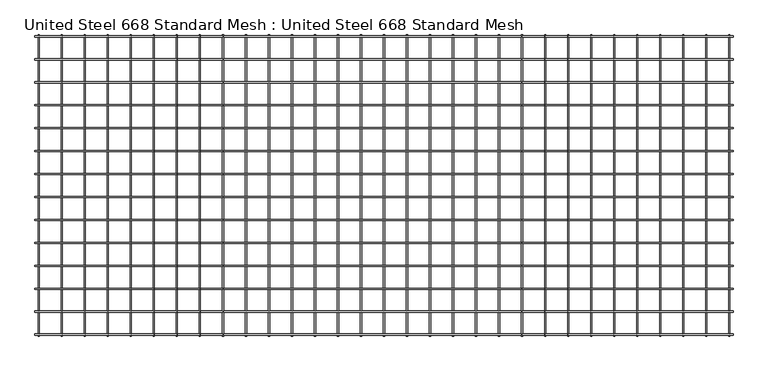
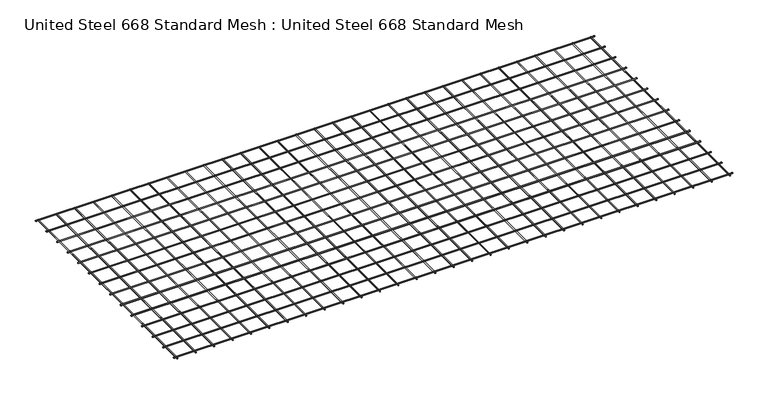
"""IFC4 building model written with IfcOpenShell, lengths in millimetres: proxy geometry, United Steel 668 Standard Mesh : United Steel 668 Standard Mesh."""

from ifc_helpers import new_model, si_unit, point, frame, frame_2d, origin, place, context, project, spatial, circle_curve, trimmed, segment, composite_curve, outline, extrude, source, transform, mapped, element, save


def united_steel_668_standard_mesh_united_steel_668_standard_f7d3e2c0(model_context):
    return source(origin(), model_context, "Body", "SweptSolid", [
        extrude(outline(composite_curve([segment(trimmed(circle_curve(frame_2d((-160.258988, 11.9785975)), 4.0), [point((-164.258988, 11.9785975))], [point((-156.258988, 11.9785975))], False, "CARTESIAN"), True, "CONTINUOUS"), segment(trimmed(circle_curve(frame_2d((-160.258988, 11.9785975)), 4.0), [point((-156.258988, 11.9785975))], [point((-164.258988, 11.9785975))], False, "CARTESIAN"), True, "CONTINUOUS")], self_intersect=False)), frame((-4560.0, 0.0, 0.0), z_axis=(1.0, 0.0, 0.0), x_axis=(0.0, 1.0, 0.0)), (0.0, 0.0, 1.0), 4560.0),
        extrude(outline(composite_curve([segment(trimmed(circle_curve(frame_2d((3.981299, -4384.564546)), 4.0), [point((3.981299, -4388.564546))], [point((3.981299, -4380.564546))], False, "CARTESIAN"), True, "CONTINUOUS"), segment(trimmed(circle_curve(frame_2d((3.981299, -4384.564546)), 4.0), [point((3.981299, -4380.564546))], [point((3.981299, -4388.564546))], False, "CARTESIAN"), True, "CONTINUOUS")], self_intersect=False)), frame((0.0, -1970.0, 0.0), z_axis=(0.0, 1.0, 0.0), x_axis=(0.0, 0.0, 1.0)), (0.0, 0.0, 1.0), 1970.0),
        extrude(outline(composite_curve([segment(trimmed(circle_curve(frame_2d((-310.2633498, 11.9785975)), 4.0), [point((-314.2633498, 11.9785975))], [point((-306.2633498, 11.9785975))], False, "CARTESIAN"), True, "CONTINUOUS"), segment(trimmed(circle_curve(frame_2d((-310.2633498, 11.9785975)), 4.0), [point((-306.2633498, 11.9785975))], [point((-314.2633498, 11.9785975))], False, "CARTESIAN"), True, "CONTINUOUS")], self_intersect=False)), frame((-4560.0, 0.0, 0.0), z_axis=(1.0, 0.0, 0.0), x_axis=(0.0, 1.0, 0.0)), (0.0, 0.0, 1.0), 4560.0),
        extrude(outline(composite_curve([segment(trimmed(circle_curve(frame_2d((-460.2677116, 11.9785975)), 4.0), [point((-464.2677116, 11.9785975))], [point((-456.2677116, 11.9785975))], False, "CARTESIAN"), True, "CONTINUOUS"), segment(trimmed(circle_curve(frame_2d((-460.2677116, 11.9785975)), 4.0), [point((-456.2677116, 11.9785975))], [point((-464.2677116, 11.9785975))], False, "CARTESIAN"), True, "CONTINUOUS")], self_intersect=False)), frame((-4560.0, 0.0, 0.0), z_axis=(1.0, 0.0, 0.0), x_axis=(0.0, 1.0, 0.0)), (0.0, 0.0, 1.0), 4560.0),
        extrude(outline(composite_curve([segment(trimmed(circle_curve(frame_2d((3.981299, -4234.2352351)), 4.0), [point((3.981299, -4238.2352351))], [point((3.981299, -4230.2352351))], False, "CARTESIAN"), True, "CONTINUOUS"), segment(trimmed(circle_curve(frame_2d((3.981299, -4234.2352351)), 4.0), [point((3.981299, -4230.2352351))], [point((3.981299, -4238.2352351))], False, "CARTESIAN"), True, "CONTINUOUS")], self_intersect=False)), frame((0.0, -1970.0, 0.0), z_axis=(0.0, 1.0, 0.0), x_axis=(0.0, 0.0, 1.0)), (0.0, 0.0, 1.0), 1970.0),
        extrude(outline(composite_curve([segment(trimmed(circle_curve(frame_2d((3.981299, -4083.9059242)), 4.0), [point((3.981299, -4087.9059242))], [point((3.981299, -4079.9059242))], False, "CARTESIAN"), True, "CONTINUOUS"), segment(trimmed(circle_curve(frame_2d((3.981299, -4083.9059242)), 4.0), [point((3.981299, -4079.9059242))], [point((3.981299, -4087.9059242))], False, "CARTESIAN"), True, "CONTINUOUS")], self_intersect=False)), frame((0.0, -1970.0, 0.0), z_axis=(0.0, 1.0, 0.0), x_axis=(0.0, 0.0, 1.0)), (0.0, 0.0, 1.0), 1970.0),
        extrude(outline(composite_curve([segment(trimmed(circle_curve(frame_2d((3.981299, -3933.5766132)), 4.0), [point((3.981299, -3937.5766132))], [point((3.981299, -3929.5766132))], False, "CARTESIAN"), True, "CONTINUOUS"), segment(trimmed(circle_curve(frame_2d((3.981299, -3933.5766132)), 4.0), [point((3.981299, -3929.5766132))], [point((3.981299, -3937.5766132))], False, "CARTESIAN"), True, "CONTINUOUS")], self_intersect=False)), frame((0.0, -1970.0, 0.0), z_axis=(0.0, 1.0, 0.0), x_axis=(0.0, 0.0, 1.0)), (0.0, 0.0, 1.0), 1970.0),
        extrude(outline(composite_curve([segment(trimmed(circle_curve(frame_2d((3.981299, -3783.2473023)), 4.0), [point((3.981299, -3787.2473023))], [point((3.981299, -3779.2473023))], False, "CARTESIAN"), True, "CONTINUOUS"), segment(trimmed(circle_curve(frame_2d((3.981299, -3783.2473023)), 4.0), [point((3.981299, -3779.2473023))], [point((3.981299, -3787.2473023))], False, "CARTESIAN"), True, "CONTINUOUS")], self_intersect=False)), frame((0.0, -1970.0, 0.0), z_axis=(0.0, 1.0, 0.0), x_axis=(0.0, 0.0, 1.0)), (0.0, 0.0, 1.0), 1970.0),
        extrude(outline(composite_curve([segment(trimmed(circle_curve(frame_2d((3.981299, -3632.9179913)), 4.0), [point((3.981299, -3636.9179913))], [point((3.981299, -3628.9179913))], False, "CARTESIAN"), True, "CONTINUOUS"), segment(trimmed(circle_curve(frame_2d((3.981299, -3632.9179913)), 4.0), [point((3.981299, -3628.9179913))], [point((3.981299, -3636.9179913))], False, "CARTESIAN"), True, "CONTINUOUS")], self_intersect=False)), frame((0.0, -1970.0, 0.0), z_axis=(0.0, 1.0, 0.0), x_axis=(0.0, 0.0, 1.0)), (0.0, 0.0, 1.0), 1970.0),
        extrude(outline(composite_curve([segment(trimmed(circle_curve(frame_2d((3.981299, -3482.5886804)), 4.0), [point((3.981299, -3486.5886804))], [point((3.981299, -3478.5886804))], False, "CARTESIAN"), True, "CONTINUOUS"), segment(trimmed(circle_curve(frame_2d((3.981299, -3482.5886804)), 4.0), [point((3.981299, -3478.5886804))], [point((3.981299, -3486.5886804))], False, "CARTESIAN"), True, "CONTINUOUS")], self_intersect=False)), frame((0.0, -1970.0, 0.0), z_axis=(0.0, 1.0, 0.0), x_axis=(0.0, 0.0, 1.0)), (0.0, 0.0, 1.0), 1970.0),
        extrude(outline(composite_curve([segment(trimmed(circle_curve(frame_2d((3.981299, -3332.2593695)), 4.0), [point((3.981299, -3336.2593695))], [point((3.981299, -3328.2593695))], False, "CARTESIAN"), True, "CONTINUOUS"), segment(trimmed(circle_curve(frame_2d((3.981299, -3332.2593695)), 4.0), [point((3.981299, -3328.2593695))], [point((3.981299, -3336.2593695))], False, "CARTESIAN"), True, "CONTINUOUS")], self_intersect=False)), frame((0.0, -1970.0, 0.0), z_axis=(0.0, 1.0, 0.0), x_axis=(0.0, 0.0, 1.0)), (0.0, 0.0, 1.0), 1970.0),
        extrude(outline(composite_curve([segment(trimmed(circle_curve(frame_2d((-610.2720734, 11.9785975)), 4.0), [point((-614.2720734, 11.9785975))], [point((-606.2720734, 11.9785975))], False, "CARTESIAN"), True, "CONTINUOUS"), segment(trimmed(circle_curve(frame_2d((-610.2720734, 11.9785975)), 4.0), [point((-606.2720734, 11.9785975))], [point((-614.2720734, 11.9785975))], False, "CARTESIAN"), True, "CONTINUOUS")], self_intersect=False)), frame((-4560.0, 0.0, 0.0), z_axis=(1.0, 0.0, 0.0), x_axis=(0.0, 1.0, 0.0)), (0.0, 0.0, 1.0), 4560.0),
        extrude(outline(composite_curve([segment(trimmed(circle_curve(frame_2d((-760.2764352, 11.9785975)), 4.0), [point((-764.2764352, 11.9785975))], [point((-756.2764352, 11.9785975))], False, "CARTESIAN"), True, "CONTINUOUS"), segment(trimmed(circle_curve(frame_2d((-760.2764352, 11.9785975)), 4.0), [point((-756.2764352, 11.9785975))], [point((-764.2764352, 11.9785975))], False, "CARTESIAN"), True, "CONTINUOUS")], self_intersect=False)), frame((-4560.0, 0.0, 0.0), z_axis=(1.0, 0.0, 0.0), x_axis=(0.0, 1.0, 0.0)), (0.0, 0.0, 1.0), 4560.0),
        extrude(outline(composite_curve([segment(trimmed(circle_curve(frame_2d((-910.280797, 11.9785975)), 4.0), [point((-914.280797, 11.9785975))], [point((-906.280797, 11.9785975))], False, "CARTESIAN"), True, "CONTINUOUS"), segment(trimmed(circle_curve(frame_2d((-910.280797, 11.9785975)), 4.0), [point((-906.280797, 11.9785975))], [point((-914.280797, 11.9785975))], False, "CARTESIAN"), True, "CONTINUOUS")], self_intersect=False)), frame((-4560.0, 0.0, 0.0), z_axis=(1.0, 0.0, 0.0), x_axis=(0.0, 1.0, 0.0)), (0.0, 0.0, 1.0), 4560.0),
        extrude(outline(composite_curve([segment(trimmed(circle_curve(frame_2d((-1060.2851588, 11.9785975)), 4.0), [point((-1064.2851588, 11.9785975))], [point((-1056.2851588, 11.9785975))], False, "CARTESIAN"), True, "CONTINUOUS"), segment(trimmed(circle_curve(frame_2d((-1060.2851588, 11.9785975)), 4.0), [point((-1056.2851588, 11.9785975))], [point((-1064.2851588, 11.9785975))], False, "CARTESIAN"), True, "CONTINUOUS")], self_intersect=False)), frame((-4560.0, 0.0, 0.0), z_axis=(1.0, 0.0, 0.0), x_axis=(0.0, 1.0, 0.0)), (0.0, 0.0, 1.0), 4560.0),
        extrude(outline(composite_curve([segment(trimmed(circle_curve(frame_2d((-1210.2895206, 11.9785975)), 4.0), [point((-1214.2895206, 11.9785975))], [point((-1206.2895206, 11.9785975))], False, "CARTESIAN"), True, "CONTINUOUS"), segment(trimmed(circle_curve(frame_2d((-1210.2895206, 11.9785975)), 4.0), [point((-1206.2895206, 11.9785975))], [point((-1214.2895206, 11.9785975))], False, "CARTESIAN"), True, "CONTINUOUS")], self_intersect=False)), frame((-4560.0, 0.0, 0.0), z_axis=(1.0, 0.0, 0.0), x_axis=(0.0, 1.0, 0.0)), (0.0, 0.0, 1.0), 4560.0),
        extrude(outline(composite_curve([segment(trimmed(circle_curve(frame_2d((-1360.2938824, 11.9785975)), 4.0), [point((-1364.2938824, 11.9785975))], [point((-1356.2938824, 11.9785975))], False, "CARTESIAN"), True, "CONTINUOUS"), segment(trimmed(circle_curve(frame_2d((-1360.2938824, 11.9785975)), 4.0), [point((-1356.2938824, 11.9785975))], [point((-1364.2938824, 11.9785975))], False, "CARTESIAN"), True, "CONTINUOUS")], self_intersect=False)), frame((-4560.0, 0.0, 0.0), z_axis=(1.0, 0.0, 0.0), x_axis=(0.0, 1.0, 0.0)), (0.0, 0.0, 1.0), 4560.0),
        extrude(outline(composite_curve([segment(trimmed(circle_curve(frame_2d((-1510.2982442, 11.9785975)), 4.0), [point((-1514.2982442, 11.9785975))], [point((-1506.2982442, 11.9785975))], False, "CARTESIAN"), True, "CONTINUOUS"), segment(trimmed(circle_curve(frame_2d((-1510.2982442, 11.9785975)), 4.0), [point((-1506.2982442, 11.9785975))], [point((-1514.2982442, 11.9785975))], False, "CARTESIAN"), True, "CONTINUOUS")], self_intersect=False)), frame((-4560.0, 0.0, 0.0), z_axis=(1.0, 0.0, 0.0), x_axis=(0.0, 1.0, 0.0)), (0.0, 0.0, 1.0), 4560.0),
        extrude(outline(composite_curve([segment(trimmed(circle_curve(frame_2d((-1660.302606, 11.9785975)), 4.0), [point((-1664.302606, 11.9785975))], [point((-1656.302606, 11.9785975))], False, "CARTESIAN"), True, "CONTINUOUS"), segment(trimmed(circle_curve(frame_2d((-1660.302606, 11.9785975)), 4.0), [point((-1656.302606, 11.9785975))], [point((-1664.302606, 11.9785975))], False, "CARTESIAN"), True, "CONTINUOUS")], self_intersect=False)), frame((-4560.0, 0.0, 0.0), z_axis=(1.0, 0.0, 0.0), x_axis=(0.0, 1.0, 0.0)), (0.0, 0.0, 1.0), 4560.0),
        extrude(outline(composite_curve([segment(trimmed(circle_curve(frame_2d((-1810.3069678, 11.9785975)), 4.0), [point((-1814.3069678, 11.9785975))], [point((-1806.3069678, 11.9785975))], False, "CARTESIAN"), True, "CONTINUOUS"), segment(trimmed(circle_curve(frame_2d((-1810.3069678, 11.9785975)), 4.0), [point((-1806.3069678, 11.9785975))], [point((-1814.3069678, 11.9785975))], False, "CARTESIAN"), True, "CONTINUOUS")], self_intersect=False)), frame((-4560.0, 0.0, 0.0), z_axis=(1.0, 0.0, 0.0), x_axis=(0.0, 1.0, 0.0)), (0.0, 0.0, 1.0), 4560.0),
        extrude(outline(composite_curve([segment(trimmed(circle_curve(frame_2d((-10.2546262, 11.9785975)), 4.0), [point((-14.2546262, 11.9785975))], [point((-6.2546262, 11.9785975))], False, "CARTESIAN"), True, "CONTINUOUS"), segment(trimmed(circle_curve(frame_2d((-10.2546262, 11.9785975)), 4.0), [point((-6.2546262, 11.9785975))], [point((-14.2546262, 11.9785975))], False, "CARTESIAN"), True, "CONTINUOUS")], self_intersect=False)), frame((-4560.0, 0.0, 0.0), z_axis=(1.0, 0.0, 0.0), x_axis=(0.0, 1.0, 0.0)), (0.0, 0.0, 1.0), 4560.0),
        extrude(outline(composite_curve([segment(trimmed(circle_curve(frame_2d((-1960.3113296, 11.9785975)), 4.0), [point((-1964.3113296, 11.9785975))], [point((-1956.3113296, 11.9785975))], False, "CARTESIAN"), True, "CONTINUOUS"), segment(trimmed(circle_curve(frame_2d((-1960.3113296, 11.9785975)), 4.0), [point((-1956.3113296, 11.9785975))], [point((-1964.3113296, 11.9785975))], False, "CARTESIAN"), True, "CONTINUOUS")], self_intersect=False)), frame((-4560.0, 0.0, 0.0), z_axis=(1.0, 0.0, 0.0), x_axis=(0.0, 1.0, 0.0)), (0.0, 0.0, 1.0), 4560.0),
        extrude(outline(composite_curve([segment(trimmed(circle_curve(frame_2d((3.981299, -3181.9300585)), 4.0), [point((3.981299, -3185.9300585))], [point((3.981299, -3177.9300585))], False, "CARTESIAN"), True, "CONTINUOUS"), segment(trimmed(circle_curve(frame_2d((3.981299, -3181.9300585)), 4.0), [point((3.981299, -3177.9300585))], [point((3.981299, -3185.9300585))], False, "CARTESIAN"), True, "CONTINUOUS")], self_intersect=False)), frame((0.0, -1970.0, 0.0), z_axis=(0.0, 1.0, 0.0), x_axis=(0.0, 0.0, 1.0)), (0.0, 0.0, 1.0), 1970.0),
        extrude(outline(composite_curve([segment(trimmed(circle_curve(frame_2d((3.981299, -3031.6007476)), 4.0), [point((3.981299, -3035.6007476))], [point((3.981299, -3027.6007476))], False, "CARTESIAN"), True, "CONTINUOUS"), segment(trimmed(circle_curve(frame_2d((3.981299, -3031.6007476)), 4.0), [point((3.981299, -3027.6007476))], [point((3.981299, -3035.6007476))], False, "CARTESIAN"), True, "CONTINUOUS")], self_intersect=False)), frame((0.0, -1970.0, 0.0), z_axis=(0.0, 1.0, 0.0), x_axis=(0.0, 0.0, 1.0)), (0.0, 0.0, 1.0), 1970.0),
        extrude(outline(composite_curve([segment(trimmed(circle_curve(frame_2d((3.981299, -2881.2714366)), 4.0), [point((3.981299, -2885.2714366))], [point((3.981299, -2877.2714366))], False, "CARTESIAN"), True, "CONTINUOUS"), segment(trimmed(circle_curve(frame_2d((3.981299, -2881.2714366)), 4.0), [point((3.981299, -2877.2714366))], [point((3.981299, -2885.2714366))], False, "CARTESIAN"), True, "CONTINUOUS")], self_intersect=False)), frame((0.0, -1970.0, 0.0), z_axis=(0.0, 1.0, 0.0), x_axis=(0.0, 0.0, 1.0)), (0.0, 0.0, 1.0), 1970.0),
        extrude(outline(composite_curve([segment(trimmed(circle_curve(frame_2d((3.981299, -2730.9421257)), 4.0), [point((3.981299, -2734.9421257))], [point((3.981299, -2726.9421257))], False, "CARTESIAN"), True, "CONTINUOUS"), segment(trimmed(circle_curve(frame_2d((3.981299, -2730.9421257)), 4.0), [point((3.981299, -2726.9421257))], [point((3.981299, -2734.9421257))], False, "CARTESIAN"), True, "CONTINUOUS")], self_intersect=False)), frame((0.0, -1970.0, 0.0), z_axis=(0.0, 1.0, 0.0), x_axis=(0.0, 0.0, 1.0)), (0.0, 0.0, 1.0), 1970.0),
        extrude(outline(composite_curve([segment(trimmed(circle_curve(frame_2d((3.981299, -2580.6128148)), 4.0), [point((3.981299, -2584.6128148))], [point((3.981299, -2576.6128148))], False, "CARTESIAN"), True, "CONTINUOUS"), segment(trimmed(circle_curve(frame_2d((3.981299, -2580.6128148)), 4.0), [point((3.981299, -2576.6128148))], [point((3.981299, -2584.6128148))], False, "CARTESIAN"), True, "CONTINUOUS")], self_intersect=False)), frame((0.0, -1970.0, 0.0), z_axis=(0.0, 1.0, 0.0), x_axis=(0.0, 0.0, 1.0)), (0.0, 0.0, 1.0), 1970.0),
        extrude(outline(composite_curve([segment(trimmed(circle_curve(frame_2d((3.981299, -2430.2835038)), 4.0), [point((3.981299, -2434.2835038))], [point((3.981299, -2426.2835038))], False, "CARTESIAN"), True, "CONTINUOUS"), segment(trimmed(circle_curve(frame_2d((3.981299, -2430.2835038)), 4.0), [point((3.981299, -2426.2835038))], [point((3.981299, -2434.2835038))], False, "CARTESIAN"), True, "CONTINUOUS")], self_intersect=False)), frame((0.0, -1970.0, 0.0), z_axis=(0.0, 1.0, 0.0), x_axis=(0.0, 0.0, 1.0)), (0.0, 0.0, 1.0), 1970.0),
        extrude(outline(composite_curve([segment(trimmed(circle_curve(frame_2d((3.981299, -2279.9541929)), 4.0), [point((3.981299, -2283.9541929))], [point((3.981299, -2275.9541929))], False, "CARTESIAN"), True, "CONTINUOUS"), segment(trimmed(circle_curve(frame_2d((3.981299, -2279.9541929)), 4.0), [point((3.981299, -2275.9541929))], [point((3.981299, -2283.9541929))], False, "CARTESIAN"), True, "CONTINUOUS")], self_intersect=False)), frame((0.0, -1970.0, 0.0), z_axis=(0.0, 1.0, 0.0), x_axis=(0.0, 0.0, 1.0)), (0.0, 0.0, 1.0), 1970.0),
        extrude(outline(composite_curve([segment(trimmed(circle_curve(frame_2d((3.981299, -2129.6248819)), 4.0), [point((3.981299, -2133.6248819))], [point((3.981299, -2125.6248819))], False, "CARTESIAN"), True, "CONTINUOUS"), segment(trimmed(circle_curve(frame_2d((3.981299, -2129.6248819)), 4.0), [point((3.981299, -2125.6248819))], [point((3.981299, -2133.6248819))], False, "CARTESIAN"), True, "CONTINUOUS")], self_intersect=False)), frame((0.0, -1970.0, 0.0), z_axis=(0.0, 1.0, 0.0), x_axis=(0.0, 0.0, 1.0)), (0.0, 0.0, 1.0), 1970.0),
        extrude(outline(composite_curve([segment(trimmed(circle_curve(frame_2d((3.981299, -1979.295571)), 4.0), [point((3.981299, -1983.295571))], [point((3.981299, -1975.295571))], False, "CARTESIAN"), True, "CONTINUOUS"), segment(trimmed(circle_curve(frame_2d((3.981299, -1979.295571)), 4.0), [point((3.981299, -1975.295571))], [point((3.981299, -1983.295571))], False, "CARTESIAN"), True, "CONTINUOUS")], self_intersect=False)), frame((0.0, -1970.0, 0.0), z_axis=(0.0, 1.0, 0.0), x_axis=(0.0, 0.0, 1.0)), (0.0, 0.0, 1.0), 1970.0),
        extrude(outline(composite_curve([segment(trimmed(circle_curve(frame_2d((3.981299, -1828.96626)), 4.0), [point((3.981299, -1832.96626))], [point((3.981299, -1824.96626))], False, "CARTESIAN"), True, "CONTINUOUS"), segment(trimmed(circle_curve(frame_2d((3.981299, -1828.96626)), 4.0), [point((3.981299, -1824.96626))], [point((3.981299, -1832.96626))], False, "CARTESIAN"), True, "CONTINUOUS")], self_intersect=False)), frame((0.0, -1970.0, 0.0), z_axis=(0.0, 1.0, 0.0), x_axis=(0.0, 0.0, 1.0)), (0.0, 0.0, 1.0), 1970.0),
        extrude(outline(composite_curve([segment(trimmed(circle_curve(frame_2d((3.981299, -1678.6369491)), 4.0), [point((3.981299, -1682.6369491))], [point((3.981299, -1674.6369491))], False, "CARTESIAN"), True, "CONTINUOUS"), segment(trimmed(circle_curve(frame_2d((3.981299, -1678.6369491)), 4.0), [point((3.981299, -1674.6369491))], [point((3.981299, -1682.6369491))], False, "CARTESIAN"), True, "CONTINUOUS")], self_intersect=False)), frame((0.0, -1970.0, 0.0), z_axis=(0.0, 1.0, 0.0), x_axis=(0.0, 0.0, 1.0)), (0.0, 0.0, 1.0), 1970.0),
        extrude(outline(composite_curve([segment(trimmed(circle_curve(frame_2d((3.981299, -1528.3076382)), 4.0), [point((3.981299, -1532.3076382))], [point((3.981299, -1524.3076382))], False, "CARTESIAN"), True, "CONTINUOUS"), segment(trimmed(circle_curve(frame_2d((3.981299, -1528.3076382)), 4.0), [point((3.981299, -1524.3076382))], [point((3.981299, -1532.3076382))], False, "CARTESIAN"), True, "CONTINUOUS")], self_intersect=False)), frame((0.0, -1970.0, 0.0), z_axis=(0.0, 1.0, 0.0), x_axis=(0.0, 0.0, 1.0)), (0.0, 0.0, 1.0), 1970.0),
        extrude(outline(composite_curve([segment(trimmed(circle_curve(frame_2d((3.981299, -1377.9783272)), 4.0), [point((3.981299, -1381.9783272))], [point((3.981299, -1373.9783272))], False, "CARTESIAN"), True, "CONTINUOUS"), segment(trimmed(circle_curve(frame_2d((3.981299, -1377.9783272)), 4.0), [point((3.981299, -1373.9783272))], [point((3.981299, -1381.9783272))], False, "CARTESIAN"), True, "CONTINUOUS")], self_intersect=False)), frame((0.0, -1970.0, 0.0), z_axis=(0.0, 1.0, 0.0), x_axis=(0.0, 0.0, 1.0)), (0.0, 0.0, 1.0), 1970.0),
        extrude(outline(composite_curve([segment(trimmed(circle_curve(frame_2d((3.981299, -1227.6490163)), 4.0), [point((3.981299, -1231.6490163))], [point((3.981299, -1223.6490163))], False, "CARTESIAN"), True, "CONTINUOUS"), segment(trimmed(circle_curve(frame_2d((3.981299, -1227.6490163)), 4.0), [point((3.981299, -1223.6490163))], [point((3.981299, -1231.6490163))], False, "CARTESIAN"), True, "CONTINUOUS")], self_intersect=False)), frame((0.0, -1970.0, 0.0), z_axis=(0.0, 1.0, 0.0), x_axis=(0.0, 0.0, 1.0)), (0.0, 0.0, 1.0), 1970.0),
        extrude(outline(composite_curve([segment(trimmed(circle_curve(frame_2d((3.981299, -1077.3197053)), 4.0), [point((3.981299, -1081.3197053))], [point((3.981299, -1073.3197053))], False, "CARTESIAN"), True, "CONTINUOUS"), segment(trimmed(circle_curve(frame_2d((3.981299, -1077.3197053)), 4.0), [point((3.981299, -1073.3197053))], [point((3.981299, -1081.3197053))], False, "CARTESIAN"), True, "CONTINUOUS")], self_intersect=False)), frame((0.0, -1970.0, 0.0), z_axis=(0.0, 1.0, 0.0), x_axis=(0.0, 0.0, 1.0)), (0.0, 0.0, 1.0), 1970.0),
        extrude(outline(composite_curve([segment(trimmed(circle_curve(frame_2d((3.981299, -926.9903944)), 4.0), [point((3.981299, -930.9903944))], [point((3.981299, -922.9903944))], False, "CARTESIAN"), True, "CONTINUOUS"), segment(trimmed(circle_curve(frame_2d((3.981299, -926.9903944)), 4.0), [point((3.981299, -922.9903944))], [point((3.981299, -930.9903944))], False, "CARTESIAN"), True, "CONTINUOUS")], self_intersect=False)), frame((0.0, -1970.0, 0.0), z_axis=(0.0, 1.0, 0.0), x_axis=(0.0, 0.0, 1.0)), (0.0, 0.0, 1.0), 1970.0),
        extrude(outline(composite_curve([segment(trimmed(circle_curve(frame_2d((3.981299, -776.6610835)), 4.0), [point((3.981299, -780.6610835))], [point((3.981299, -772.6610835))], False, "CARTESIAN"), True, "CONTINUOUS"), segment(trimmed(circle_curve(frame_2d((3.981299, -776.6610835)), 4.0), [point((3.981299, -772.6610835))], [point((3.981299, -780.6610835))], False, "CARTESIAN"), True, "CONTINUOUS")], self_intersect=False)), frame((0.0, -1970.0, 0.0), z_axis=(0.0, 1.0, 0.0), x_axis=(0.0, 0.0, 1.0)), (0.0, 0.0, 1.0), 1970.0),
        extrude(outline(composite_curve([segment(trimmed(circle_curve(frame_2d((3.981299, -626.3317725)), 4.0), [point((3.981299, -630.3317725))], [point((3.981299, -622.3317725))], False, "CARTESIAN"), True, "CONTINUOUS"), segment(trimmed(circle_curve(frame_2d((3.981299, -626.3317725)), 4.0), [point((3.981299, -622.3317725))], [point((3.981299, -630.3317725))], False, "CARTESIAN"), True, "CONTINUOUS")], self_intersect=False)), frame((0.0, -1970.0, 0.0), z_axis=(0.0, 1.0, 0.0), x_axis=(0.0, 0.0, 1.0)), (0.0, 0.0, 1.0), 1970.0),
        extrude(outline(composite_curve([segment(trimmed(circle_curve(frame_2d((3.981299, -476.0024616)), 4.0), [point((3.981299, -480.0024616))], [point((3.981299, -472.0024616))], False, "CARTESIAN"), True, "CONTINUOUS"), segment(trimmed(circle_curve(frame_2d((3.981299, -476.0024616)), 4.0), [point((3.981299, -472.0024616))], [point((3.981299, -480.0024616))], False, "CARTESIAN"), True, "CONTINUOUS")], self_intersect=False)), frame((0.0, -1970.0, 0.0), z_axis=(0.0, 1.0, 0.0), x_axis=(0.0, 0.0, 1.0)), (0.0, 0.0, 1.0), 1970.0),
        extrude(outline(composite_curve([segment(trimmed(circle_curve(frame_2d((3.981299, -325.6731506)), 4.0), [point((3.981299, -329.6731506))], [point((3.981299, -321.6731506))], False, "CARTESIAN"), True, "CONTINUOUS"), segment(trimmed(circle_curve(frame_2d((3.981299, -325.6731506)), 4.0), [point((3.981299, -321.6731506))], [point((3.981299, -329.6731506))], False, "CARTESIAN"), True, "CONTINUOUS")], self_intersect=False)), frame((0.0, -1970.0, 0.0), z_axis=(0.0, 1.0, 0.0), x_axis=(0.0, 0.0, 1.0)), (0.0, 0.0, 1.0), 1970.0),
        extrude(outline(composite_curve([segment(trimmed(circle_curve(frame_2d((3.981299, -175.3438397)), 4.0), [point((3.981299, -179.3438397))], [point((3.981299, -171.3438397))], False, "CARTESIAN"), True, "CONTINUOUS"), segment(trimmed(circle_curve(frame_2d((3.981299, -175.3438397)), 4.0), [point((3.981299, -171.3438397))], [point((3.981299, -179.3438397))], False, "CARTESIAN"), True, "CONTINUOUS")], self_intersect=False)), frame((0.0, -1970.0, 0.0), z_axis=(0.0, 1.0, 0.0), x_axis=(0.0, 0.0, 1.0)), (0.0, 0.0, 1.0), 1970.0),
        extrude(outline(composite_curve([segment(trimmed(circle_curve(frame_2d((3.981299, -4534.893857)), 4.0), [point((3.981299, -4538.893857))], [point((3.981299, -4530.893857))], False, "CARTESIAN"), True, "CONTINUOUS"), segment(trimmed(circle_curve(frame_2d((3.981299, -4534.893857)), 4.0), [point((3.981299, -4530.893857))], [point((3.981299, -4538.893857))], False, "CARTESIAN"), True, "CONTINUOUS")], self_intersect=False)), frame((0.0, -1970.0, 0.0), z_axis=(0.0, 1.0, 0.0), x_axis=(0.0, 0.0, 1.0)), (0.0, 0.0, 1.0), 1970.0),
        extrude(outline(composite_curve([segment(trimmed(circle_curve(frame_2d((3.981299, -25.0145288)), 4.0), [point((3.981299, -29.0145288))], [point((3.981299, -21.0145288))], False, "CARTESIAN"), True, "CONTINUOUS"), segment(trimmed(circle_curve(frame_2d((3.981299, -25.0145288)), 4.0), [point((3.981299, -21.0145288))], [point((3.981299, -29.0145288))], False, "CARTESIAN"), True, "CONTINUOUS")], self_intersect=False)), frame((0.0, -1970.0, 0.0), z_axis=(0.0, 1.0, 0.0), x_axis=(0.0, 0.0, 1.0)), (0.0, 0.0, 1.0), 1970.0),
    ])


if __name__ == "__main__":
    model = new_model("IFC4")
    model_context = context("Model", 3, world=origin())
    ifc_project = project(units=[si_unit("LENGTHUNIT", "METRE", prefix="MILLI")], contexts=[model_context])
    site = spatial("IfcSite", under=ifc_project)
    building = spatial("IfcBuilding", under=site)
    placement = place(None, origin())
    united_steel_668_standard_mesh_united_steel_668_standard_shape = united_steel_668_standard_mesh_united_steel_668_standard_f7d3e2c0(model_context)
    element("IfcBuildingElementProxy", 1, Name="United Steel 668 Standard Mesh : United Steel 668 Standard Mesh", ObjectType="United Steel 668 Standard Mesh : United Steel 668 Standard Mesh", at=placement, inside=building, context=model_context, shape_type="MappedRepresentation", body=[
        mapped(united_steel_668_standard_mesh_united_steel_668_standard_shape, transform((0.0, 0.0, 0.0), x_axis=(1.0, 0.0, 0.0), y_axis=(0.0, 1.0, 0.0), z_axis=(0.0, 0.0, 1.0))),
    ])
    save(model, "model.ifc")
